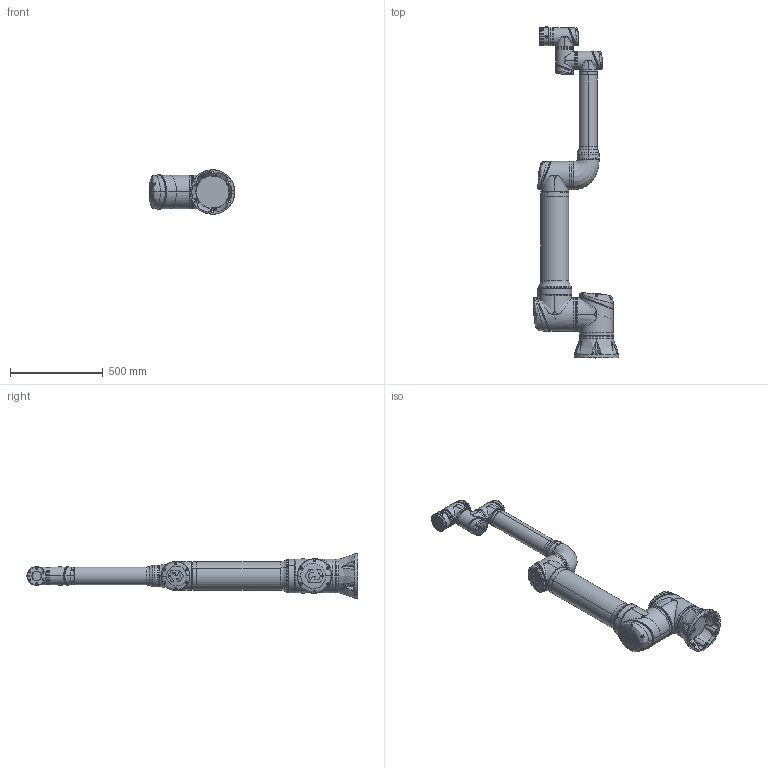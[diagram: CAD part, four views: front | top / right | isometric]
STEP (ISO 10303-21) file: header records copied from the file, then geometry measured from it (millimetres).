
FILE_DESCRIPTION (( 'STEP AP203' ), '1' );
FILE_NAME ('CS_掛极CS625F_V1.2.STEP', '2026-03-12T09:39:19', ( '' ), ( '' ), 'SwSTEP 2.0', 'SolidWorks 2017', '' );
FILE_SCHEMA (( 'CONFIG_CONTROL_DESIGN' ));
Length unit declared in the file: millimetre
Products named in the file (8): C20藺傷楊擘郪璃; CS625F-J6; CS_掛极CS625F_V1.2; CS625F-J1; CS625F-J2_Link1_J3; CS625F-J5; CS625F-Link2A_Link2B_J4; CS625F-Base
Assembly tree (7 placements, depth 2):
  CS_掛极CS625F_V1.2
    CS625F-Base
    CS625F-J1
    CS625F-J2_Link1_J3
    CS625F-Link2A_Link2B_J4
    CS625F-J5
    CS625F-J6
    C20藺傷楊擘郪璃
Bounding box: 460.8 x 1792 x 239.8 mm (x, y, z)
Volume: 4295312.5 mm3; surface area: 2087479.8 mm2
Topology: 29 solids, 104 shells, 5853 faces, 13872 edges, 8256 vertices
Faces by surface type: bspline 2671, plane 1428, cylinder 1114, cone 371, torus 153, sphere 116
Full cylindrical faces by diameter (mm): 12 x2
Entity records: 326188 total; most frequent: CARTESIAN_POINT 212655, ORIENTED_EDGE 27212, DIRECTION 18242, EDGE_CURVE 13610, VERTEX_POINT 8240, AXIS2_PLACEMENT_3D 7601, EDGE_LOOP 6212, FACE_OUTER_BOUND 5853
